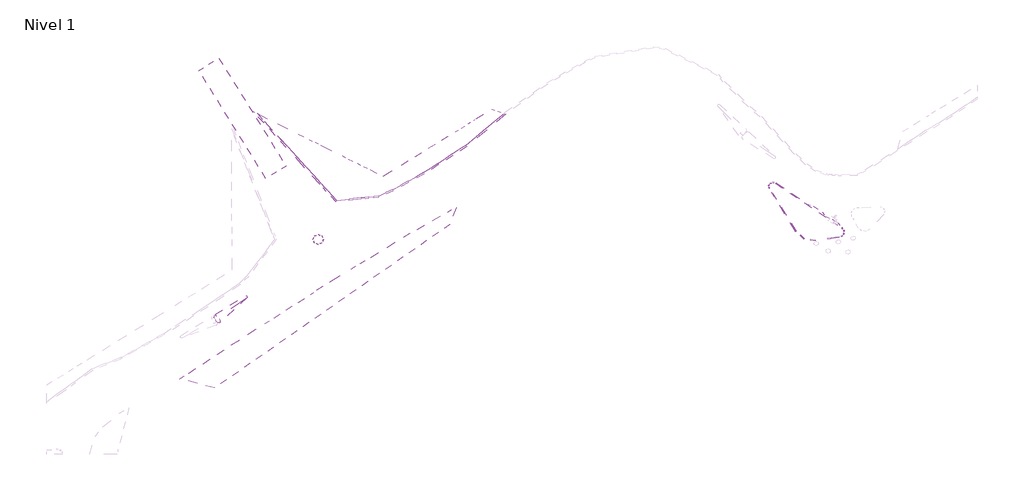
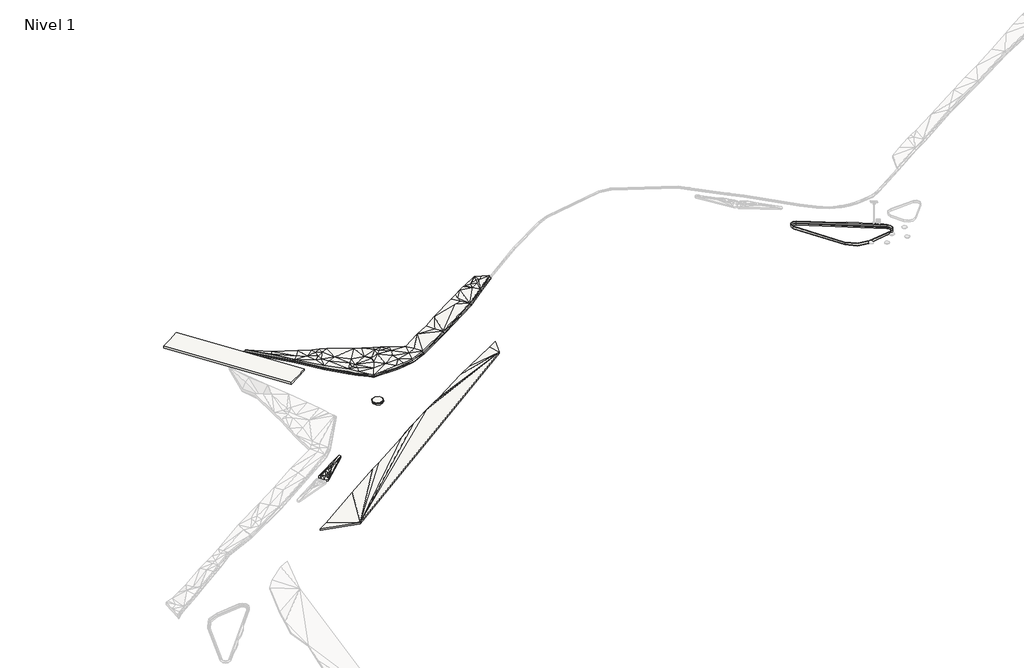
# One storey, part 38 of 45: 9 slabs.
"""IFC4 building model written with IfcOpenShell, lengths in millimetres."""

from ifc_helpers import new_model, si_unit, point, frame, frame_2d, origin, place, context, project, spatial, polyline, circle_curve, trimmed, segment, composite_curve, outline, extrude, faceted_brep, element, save
from ifc_brep_helpers import plane_surface, cylinder_surface, revolved_surface, spline_surface, advanced_brep

model = new_model("IFC4")

# Units and contexts
model_context = context("Model", 3, world=origin())
ifc_project = project(units=[si_unit("LENGTHUNIT", "METRE", prefix="MILLI")], contexts=[model_context])

# Site, building, storey
site = spatial("IfcSite", under=ifc_project)
building = spatial("IfcBuilding", under=site)
storey = spatial("IfcBuildingStorey", under=building, Name="Nivel 1", Elevation=0.0)

# Slabs
placement = place(None, origin())
element("IfcSlab", 1, ObjectType="Lippia", at=placement, inside=storey, context=model_context, shape_type="AdvancedBrep", body=[
    advanced_brep(
    [(-180439.4221483, 913300.8342034, 6450.0), (-180439.4221483, 913300.8342034, 6750.0), (-180922.1146071, 914080.0344156, 6750.0), (-180922.1146071, 914080.0344156, 6450.0), (-179663.7296089, 913241.4337641, 6450.0), (-179663.7296089, 913241.4337641, 6750.0), (-174536.6006951, 918035.914138, 6450.0), (-174536.6006951, 918035.914138, 6750.0), (-180760.2781276, 914764.6384502, 6450.0), (-180760.2781276, 914764.6384502, 6750.0), (-174811.5670405, 918445.7465879, 6750.0), (-174811.5670405, 918445.7465879, 6450.0), (-178935.399618, 914432.3121095, 7250.0), (-178672.5430449, 914948.7469465, 7250.0), (-178770.0025911, 915267.1847236, 7250.0), (-179102.0873318, 915212.5326208, 7250.0), (-179268.5275744, 914994.1628216, 7250.0), (-179465.5665354, 914752.8257232, 7250.0), (-179303.5036724, 914342.27944, 7250.0), (-180004.2631637, 913837.7097632, 7050.0), (-180400.1130616, 914151.6434341, 7050.0), (-178935.399618, 914432.3121095, 6950.0), (-179303.5036724, 914342.27944, 6950.0), (-179465.5665354, 914752.8257232, 6950.0), (-179268.5275744, 914994.1628216, 6950.0), (-179102.0873318, 915212.5326208, 6950.0), (-178770.0025911, 915267.1847236, 6950.0), (-178672.5430449, 914948.7469465, 6950.0), (-180004.2631637, 913837.7097632, 6750.0), (-180400.1130616, 914151.6434341, 6750.0), (-177617.3701467, 915662.4217462, 7050.0), (-177927.2535078, 916049.5422057, 7050.0), (-177617.3701467, 915662.4217462, 6750.0), (-177927.2535078, 916049.5422057, 6750.0), (-180374.663285, 914561.1340275, 7050.0), (-180495.3667085, 914340.5842789, 7050.0), (-180374.663285, 914561.1340275, 6750.0), (-180495.3667085, 914340.5842789, 6750.0), (-179659.7582553, 913730.6113589, 7050.0), (-179659.7582553, 913730.6113589, 6750.0), (-179332.8591974, 913883.224288, 7050.0), (-179332.8591974, 913883.224288, 6750.0), (-177602.1647804, 915992.1734923, 7050.0), (-177602.1647804, 915992.1734923, 6750.0)],
    [
        (0, 1),
        (1, 2),
        (2, 3),
        (3, 0),
        (4, 5),
        (5, 1, circle_curve(frame((-180027.5889889, 913584.3715895, 6750.0), z_axis=(0.0, 0.0, -1.0), x_axis=(0.9999997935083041, -0.0006426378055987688, 0.0)), 500.0000005)),
        (0, 4, circle_curve(frame((-180027.5889889, 913584.3715895, 6450.0), z_axis=(0.0, 0.0, 1.0), x_axis=(0.9999997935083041, -0.0006426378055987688, 0.0)), 500.0000005)),
        (6, 7),
        (7, 5),
        (4, 6),
        (8, 9),
        (9, 10),
        (10, 11),
        (11, 8),
        (2, 9, circle_curve(frame((-180495.3667085, 914340.5842789, 6750.0), z_axis=(0.0, 0.0, -1.0), x_axis=(0.9999997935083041, -0.0006426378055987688, 0.0)), 500.0000001)),
        (8, 3, circle_curve(frame((-180495.3667085, 914340.5842789, 6450.0), z_axis=(0.0, 0.0, 1.0), x_axis=(0.9999997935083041, -0.0006426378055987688, 0.0)), 500.0000001)),
        (12, 13),
        (13, 14),
        (14, 15),
        (15, 16),
        (16, 17),
        (17, 18),
        (18, 12),
        (5, 19),
        (19, 1),
        (1, 20),
        (20, 2),
        (21, 22),
        (22, 23),
        (23, 24),
        (24, 25),
        (25, 26),
        (26, 27),
        (27, 21),
        (0, 28),
        (28, 4),
        (3, 29),
        (29, 0),
        (13, 30),
        (30, 14),
        (14, 31),
        (31, 15),
        (26, 32),
        (32, 27),
        (25, 33),
        (33, 26),
        (30, 31),
        (12, 30),
        (33, 32),
        (32, 21),
        (34, 9),
        (9, 35),
        (35, 34),
        (16, 34),
        (34, 17),
        (36, 37),
        (37, 8),
        (8, 36),
        (23, 36),
        (36, 24),
        (2, 35),
        (35, 20),
        (20, 19),
        (19, 34),
        (37, 3),
        (36, 28),
        (28, 29),
        (29, 37),
        (19, 17),
        (19, 18),
        (5, 38),
        (38, 19),
        (23, 28),
        (22, 28),
        (28, 39),
        (39, 4),
        (40, 18),
        (18, 38),
        (38, 40),
        (40, 5),
        (5, 30),
        (30, 40),
        (41, 39),
        (39, 22),
        (22, 41),
        (41, 32),
        (32, 4),
        (4, 41),
        (34, 15),
        (31, 34),
        (31, 9),
        (36, 33),
        (25, 36),
        (8, 33),
        (40, 12),
        (21, 41),
        (42, 31),
        (30, 42),
        (43, 32),
        (33, 43),
        (10, 7, circle_curve(frame((-174707.3804829, 918218.4908714, 6750.0), z_axis=(0.0, 0.0, -1.0), x_axis=(0.9999997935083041, -0.0006426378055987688, 0.0)), 249.999999)),
        (6, 11, circle_curve(frame((-174707.3804829, 918218.4908714, 6450.0), z_axis=(0.0, 0.0, 1.0), x_axis=(0.9999997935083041, -0.0006426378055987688, 0.0)), 249.999999)),
        (31, 10),
        (42, 10),
        (42, 7),
        (30, 7),
        (11, 33),
        (11, 43),
        (6, 43),
        (6, 32),
    ],
    [
        plane_surface(frame((-180439.4221483, 913300.8342034, 6450.0), z_axis=(-0.850103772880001, -0.5266152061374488, 0.0), x_axis=(0.0, 0.0, 1.0))),
        cylinder_surface(frame((-180027.5889889, 913584.3715895, 6750.0), z_axis=(0.0, 0.0, -1.0), x_axis=(0.9999997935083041, -0.0006426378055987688, 0.0)), 500.0000005),
        plane_surface(frame((-174536.6006951, 918035.914138, 6450.0), z_axis=(0.6830153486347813, -0.7304040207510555, 0.0), x_axis=(0.0, 0.0, 1.0))),
        plane_surface(frame((-180760.2781276, 914764.6384502, 6450.0), z_axis=(-0.5262071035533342, 0.8503564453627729, 0.0), x_axis=(0.0, 0.0, 1.0))),
        cylinder_surface(frame((-180495.3667085, 914340.5842789, 6750.0), z_axis=(0.0, 0.0, -1.0), x_axis=(0.9999997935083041, -0.0006426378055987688, 0.0)), 500.0000001),
        plane_surface(frame((-179073.9471954, 914850.0063407, 7250.0), z_axis=(0.0, 0.0, 1.0), x_axis=(0.4536066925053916, 0.891201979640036, 0.0))),
        spline_surface(2, 1, [[(-180439.4221483, 913300.8342034, 6750.0), (-180004.2631637, 913837.7097632, 7050.0)], [(-180303.95541076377, 913104.0711053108, 6750.0), (-180004.2631637, 913837.7097632, 7050.0)], [(-180065.7658657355, 913085.8311933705, 6750.0), (-180004.2631637, 913837.7097632, 7050.0)], [(-179827.57632070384, 913067.5912814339, 6750.0), (-180004.2631637, 913837.7097632, 7050.0)], [(-179663.7296089, 913241.4337641, 6750.0), (-180004.2631637, 913837.7097632, 7050.0)]], [3, 2, 3], [2, 2], [0.0, 1.0, 2.0], [0.0, 1.0], weights=[[1.0, 1.0], [0.9023052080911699, 0.9023052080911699], [1.0, 1.0], [0.9023052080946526, 0.9023052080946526], [1.0, 1.0]]),
        plane_surface(frame((-180587.2166057, 913844.1706844, 6850.0), z_axis=(-0.4495663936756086, -0.2784936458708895, 0.8487233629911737), x_axis=(0.5266152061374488, -0.850103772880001, 0.0))),
        plane_surface(frame((-179073.9471954, 914850.0063407, 6950.0), z_axis=(0.0, 0.0, -1.0), x_axis=(0.4536066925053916, 0.891201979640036, 0.0))),
        spline_surface(1, 2, [[(-180439.4221483, 913300.8342034, 6450.0), (-180303.95541076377, 913104.0711053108, 6450.0), (-180065.7658657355, 913085.8311933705, 6450.0), (-179827.57632070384, 913067.5912814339, 6450.0), (-179663.7296089, 913241.4337641, 6450.0)], [(-180004.2631637, 913837.7097632, 6750.0), (-180004.2631637, 913837.7097632, 6750.0), (-180004.2631637, 913837.7097632, 6750.0), (-180004.2631637, 913837.7097632, 6750.0), (-180004.2631637, 913837.7097632, 6750.0)]], [2, 2], [3, 2, 3], [0.0, 1.0], [0.0, 1.0, 2.0], weights=[[1.0, 0.9023052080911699, 1.0, 0.9023052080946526, 1.0], [1.0, 0.9023052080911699, 1.0, 0.9023052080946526, 1.0]]),
        plane_surface(frame((-180587.2166057, 913844.1706844, 6550.0), z_axis=(0.4495663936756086, 0.2784936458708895, -0.8487233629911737), x_axis=(0.5266152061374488, -0.850103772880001, 0.0))),
        plane_surface(frame((-178353.3052609, 915292.7844721, 7183.3333333), z_axis=(0.1549598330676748, 0.04742626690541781, 0.9867817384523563), x_axis=(0.2926555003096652, -0.9562179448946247, 0.0))),
        plane_surface(frame((-178599.7811435, 915509.7531833, 7183.3333333), z_axis=(-0.04877506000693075, 0.2963738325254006, 0.953825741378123), x_axis=(0.9867269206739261, 0.16238837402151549, 0.0))),
        plane_surface(frame((-178353.3052609, 915292.7844721, 6883.3333333), z_axis=(-0.1549598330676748, -0.04742626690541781, -0.9867817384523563), x_axis=(0.2926555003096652, -0.9562179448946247, 0.0))),
        plane_surface(frame((-178599.7811435, 915509.7531833, 6883.3333333), z_axis=(0.04877506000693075, -0.2963738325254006, -0.953825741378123), x_axis=(0.9867269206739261, 0.16238837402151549, 0.0))),
        plane_surface(frame((-178104.8754152, 915659.7162251, 7116.6666667), z_axis=(0.13412160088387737, 0.10736206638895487, 0.9851318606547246), x_axis=(-0.7220386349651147, -0.6702971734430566, 0.17135317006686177))),
        plane_surface(frame((-178408.4376032, 915014.4936007, 7183.3333333), z_axis=(0.27494893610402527, -0.13994434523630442, 0.9512195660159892), x_axis=(-0.8183024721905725, -0.5534655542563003, 0.15510301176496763))),
        plane_surface(frame((-178104.8754152, 915659.7162251, 6816.6666667), z_axis=(-0.13412160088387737, -0.10736206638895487, -0.9851318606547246), x_axis=(-0.7220386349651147, -0.6702971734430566, 0.17135317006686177))),
        plane_surface(frame((-178408.4376032, 915014.4936007, 6883.3333333), z_axis=(-0.27494893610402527, 0.13994434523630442, -0.9512195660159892), x_axis=(-0.8183024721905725, -0.5534655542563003, 0.15510301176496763))),
        plane_surface(frame((-180543.4360404, 914555.4522522, 6950.0), z_axis=(-0.4972755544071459, 0.27215112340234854, 0.8238026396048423), x_axis=(-0.7285967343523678, 0.3845097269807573, -0.5668324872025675))),
        plane_surface(frame((-179702.9191316, 914769.3741908, 7183.3333333), z_axis=(-0.25136736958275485, 0.20522814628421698, 0.9458836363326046), x_axis=(0.6324325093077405, 0.7746154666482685, 0.0))),
        plane_surface(frame((-180543.4360404, 914555.4522522, 6650.0), z_axis=(0.4972755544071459, -0.27215112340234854, -0.8238026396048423), x_axis=(-0.7285967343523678, 0.3845097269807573, -0.5668324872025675))),
        plane_surface(frame((-179702.9191316, 914769.3741908, 6883.3333333), z_axis=(0.25136736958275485, -0.20522814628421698, -0.9458836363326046), x_axis=(0.6324325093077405, 0.7746154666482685, 0.0))),
        revolved_surface(polyline([(-180495.3667085, 914340.5842789, 7050.0), (-180760.27812760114, 914764.6384502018, 6749.999999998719)]), (-180495.3667085, 914340.5842789, 7050.0), (0.0, -1.3860699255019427e-12, -1.0)),
        plane_surface(frame((-180318.6015547, 914222.7678759, 7050.0), z_axis=(0.0, 0.0, 1.0), x_axis=(0.45017238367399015, -0.8929416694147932, 0.0))),
        plane_surface(frame((-180605.8647924, 914190.7540429, 6950.0), z_axis=(-0.4605294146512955, -0.23217375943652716, 0.8567426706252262), x_axis=(-0.731866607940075, -0.44683932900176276, -0.5144957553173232))),
        revolved_surface(polyline([(-180922.11460710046, 914080.0344155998, 6449.999999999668), (-180495.3667085, 914340.5842789, 6750.0)]), (-180495.3667085, 914340.5842789, 6750.0), (0.0, -1.3860699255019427e-12, -1.0)),
        plane_surface(frame((-180318.6015547, 914222.7678759, 6750.0), z_axis=(0.0, 0.0, -1.0), x_axis=(0.45017238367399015, -0.8929416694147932, 0.0))),
        plane_surface(frame((-180605.8647924, 914190.7540429, 6650.0), z_axis=(0.4605294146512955, 0.23217375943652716, -0.8567426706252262), x_axis=(-0.731866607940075, -0.44683932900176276, -0.5144957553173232))),
        plane_surface(frame((-179948.1643281, 914383.889838, 7116.6666667), z_axis=(-0.1937980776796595, -0.09922646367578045, 0.9760104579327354), x_axis=(0.4985301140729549, 0.8468827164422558, 0.18508751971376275))),
        plane_surface(frame((-179591.1111239, 914310.9383088, 7183.3333333), z_axis=(-0.2161535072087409, -0.0853264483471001, 0.9726238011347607), x_axis=(0.7905934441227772, 0.5692530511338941, 0.2256390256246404))),
        plane_surface(frame((-179775.9170093, 913603.2516287, 6950.0), z_axis=(-0.16013253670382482, -0.515100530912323, 0.8420386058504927), x_axis=(0.45444556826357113, -0.7957365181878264, -0.4003531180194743))),
        plane_surface(frame((-180281.2661246, 913763.3958002, 6950.0), z_axis=(-0.2474428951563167, -0.31200936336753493, 0.9172906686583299), x_axis=(-0.043531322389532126, -0.9421956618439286, -0.33222335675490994))),
        plane_surface(frame((-179948.1643281, 914383.889838, 6816.6666667), z_axis=(0.1937980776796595, 0.09922646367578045, -0.9760104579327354), x_axis=(0.4985301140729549, 0.8468827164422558, 0.18508751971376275))),
        plane_surface(frame((-179591.1111239, 914310.9383088, 6883.3333333), z_axis=(0.2161535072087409, 0.0853264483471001, -0.9726238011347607), x_axis=(0.7905934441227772, 0.5692530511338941, 0.2256390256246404))),
        plane_surface(frame((-179775.9170093, 913603.2516287, 6650.0), z_axis=(0.16013253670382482, 0.515100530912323, -0.8420386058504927), x_axis=(0.45444556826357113, -0.7957365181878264, -0.4003531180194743))),
        plane_surface(frame((-180281.2661246, 913763.3958002, 6650.0), z_axis=(0.2474428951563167, 0.31200936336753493, -0.9172906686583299), x_axis=(-0.043531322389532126, -0.9421956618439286, -0.33222335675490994))),
        plane_surface(frame((-179432.040375, 913985.3716956, 7116.6666667), z_axis=(0.1878498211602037, -0.40237698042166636, 0.89599397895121), x_axis=(0.05852484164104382, 0.9151984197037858, 0.39873135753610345))),
        plane_surface(frame((-178871.319651, 914262.3599328, 6950.0), z_axis=(0.5922575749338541, -0.5710503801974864, 0.5684473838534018), x_axis=(-0.4231611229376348, -0.8208071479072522, -0.3836799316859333))),
        plane_surface(frame((-179432.040375, 913985.3716956, 6816.6666667), z_axis=(-0.1878498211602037, 0.40237698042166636, -0.89599397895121), x_axis=(0.05852484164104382, 0.9151984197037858, 0.39873135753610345))),
        plane_surface(frame((-178871.319651, 914262.3599328, 6650.0), z_axis=(-0.5922575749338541, 0.5710503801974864, -0.5684473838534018), x_axis=(-0.4231611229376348, -0.8208071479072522, -0.3836799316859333))),
        plane_surface(frame((-179655.8416971, 913970.2001874, 7116.6666667), z_axis=(-0.08266150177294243, -0.2658983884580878, 0.9604504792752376), x_axis=(0.48432811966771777, 0.831562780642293, 0.27190000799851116))),
        plane_surface(frame((-179655.8416971, 913970.2001874, 6816.6666667), z_axis=(0.08266150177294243, 0.2658983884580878, -0.9604504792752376), x_axis=(0.48432811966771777, 0.831562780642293, 0.27190000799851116))),
        plane_surface(frame((-179134.6680415, 915274.4029513, 7116.6666667), z_axis=(-0.4603582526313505, 0.7569733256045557, 0.46374741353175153), x_axis=(0.8815741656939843, 0.4512549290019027, 0.13854955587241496))),
        plane_surface(frame((-179581.7593971, 914922.6098233, 7183.3333333), z_axis=(-0.24515560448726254, 0.1868562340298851, 0.9513061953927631), x_axis=(0.9182632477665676, 0.35948068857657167, 0.16603084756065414))),
        plane_surface(frame((-179687.3983068, 915125.1048944, 6950.0), z_axis=(-0.32499740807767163, 0.5343976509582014, 0.7802536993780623), x_axis=(-0.906503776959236, -0.4111401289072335, -0.09599321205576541))),
        plane_surface(frame((-179134.6680415, 915274.4029513, 6816.6666667), z_axis=(0.4603582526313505, -0.7569733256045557, -0.46374741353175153), x_axis=(0.8815741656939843, 0.4512549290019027, 0.13854955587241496))),
        plane_surface(frame((-179581.7593971, 914922.6098233, 6883.3333333), z_axis=(0.24515560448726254, -0.1868562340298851, -0.9513061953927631), x_axis=(0.9182632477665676, 0.35948068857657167, 0.16603084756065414))),
        plane_surface(frame((-179687.3983068, 915125.1048944, 6650.0), z_axis=(0.32499740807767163, -0.5343976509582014, -0.7802536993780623), x_axis=(-0.906503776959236, -0.4111401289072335, -0.09599321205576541))),
        plane_surface(frame((-179190.5874959, 914219.2719458, 7183.3333333), z_axis=(0.09850924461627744, -0.4027610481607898, 0.9099887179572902), x_axis=(-0.9713675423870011, -0.2375817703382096, 0.0))),
        plane_surface(frame((-178628.5429874, 914659.3193812, 7116.6666667), z_axis=(0.6502494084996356, -0.6269656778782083, 0.429056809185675), x_axis=(-0.7266121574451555, -0.6781431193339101, 0.11025734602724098))),
        plane_surface(frame((-179190.5874959, 914219.2719458, 6883.3333333), z_axis=(-0.09850924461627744, 0.4027610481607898, -0.9099887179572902), x_axis=(-0.9713675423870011, -0.2375817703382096, 0.0))),
        plane_surface(frame((-178628.5429874, 914659.3193812, 6816.6666667), z_axis=(-0.6502494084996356, 0.6269656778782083, -0.429056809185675), x_axis=(-0.7266121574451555, -0.6781431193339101, 0.11025734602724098))),
        plane_surface(frame((-177715.596145, 915901.3791481, 7050.0), z_axis=(0.0, 0.0, 1.0), x_axis=(-0.9847834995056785, 0.17378567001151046, 0.0))),
        plane_surface(frame((-179552.1156872, 913618.423137, 6950.0), z_axis=(0.23772332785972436, -0.5092067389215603, 0.827161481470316), x_axis=(-0.0069204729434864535, -0.8524399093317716, -0.5227794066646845))),
        plane_surface(frame((-177715.596145, 915901.3791481, 6750.0), z_axis=(0.0, 0.0, -1.0), x_axis=(-0.9847834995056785, 0.17378567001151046, 0.0))),
        plane_surface(frame((-179552.1156872, 913618.423137, 6650.0), z_axis=(-0.23772332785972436, 0.5092067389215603, -0.827161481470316), x_axis=(-0.0069204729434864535, -0.8524399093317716, -0.5227794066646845))),
        cylinder_surface(frame((-174707.3804829, 918218.4908714, 6750.0), z_axis=(0.0, 0.0, -1.0), x_axis=(0.9999997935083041, -0.0006426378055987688, 0.0)), 249.999999),
        plane_surface(frame((-177833.032892, 916419.9757479, 6850.0), z_axis=(-0.31667018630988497, 0.5117424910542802, 0.7986486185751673), x_axis=(-0.8503564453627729, -0.5262071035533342, 0.0))),
        plane_surface(frame((-176780.3284429, 916829.1540953, 6950.0), z_axis=(0.017875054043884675, 0.10129177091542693, 0.9946961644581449), x_axis=(-0.7903838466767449, -0.6078664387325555, 0.07610366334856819))),
        spline_surface(2, 1, [[(-174536.6006951, 918035.914138, 6750.0), (-177602.1647804, 915992.1734923, 7050.0)], [(-174381.29610511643, 918181.1839345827, 6750.0), (-177602.1647804, 915992.1734923, 7050.0)], [(-174499.77671647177, 918357.7771796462, 6750.0), (-177602.1647804, 915992.1734923, 7050.0)], [(-174618.25732777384, 918534.370424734, 6750.0), (-177602.1647804, 915992.1734923, 7050.0)], [(-174811.5670405, 918445.7465879, 6750.0), (-177602.1647804, 915992.1734923, 7050.0)]], [3, 2, 3], [2, 2], [0.0, 1.0, 2.0], [0.0, 1.0], weights=[[1.0, 1.0], [0.7617038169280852, 0.7617038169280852], [1.0, 1.0], [0.7617038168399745, 0.7617038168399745], [1.0, 1.0]]),
        plane_surface(frame((-176585.3785408, 916563.5031255, 6950.0), z_axis=(0.10045329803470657, -0.004632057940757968, 0.994930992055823), x_axis=(-0.04606261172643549, -0.9989385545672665, 0.0))),
        plane_surface(frame((-177272.5668169, 915646.5898828, 6850.0), z_axis=(0.42974069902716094, -0.45955678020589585, 0.7772583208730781), x_axis=(-0.6426718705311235, -0.7603262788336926, -0.09421685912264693))),
        plane_surface(frame((-177833.032892, 916419.9757479, 6550.0), z_axis=(0.31667018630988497, -0.5117424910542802, -0.7986486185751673), x_axis=(-0.8503564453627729, -0.5262071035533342, 0.0))),
        plane_surface(frame((-176780.3284429, 916829.1540953, 6650.0), z_axis=(-0.017875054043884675, -0.10129177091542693, -0.9946961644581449), x_axis=(-0.7903838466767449, -0.6078664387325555, 0.07610366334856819))),
        spline_surface(1, 2, [[(-174536.6006951, 918035.914138, 6450.0), (-174381.29610511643, 918181.1839345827, 6450.0), (-174499.77671647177, 918357.7771796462, 6450.0), (-174618.25732777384, 918534.370424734, 6450.0), (-174811.5670405, 918445.7465879, 6450.0)], [(-177602.1647804, 915992.1734923, 6750.0), (-177602.1647804, 915992.1734923, 6750.0), (-177602.1647804, 915992.1734923, 6750.0), (-177602.1647804, 915992.1734923, 6750.0), (-177602.1647804, 915992.1734923, 6750.0)]], [2, 2], [3, 2, 3], [0.0, 1.0], [0.0, 1.0, 2.0], weights=[[1.0, 0.7617038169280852, 1.0, 0.7617038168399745, 1.0], [1.0, 0.7617038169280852, 1.0, 0.7617038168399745, 1.0]]),
        plane_surface(frame((-176585.3785408, 916563.5031255, 6650.0), z_axis=(-0.10045329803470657, 0.004632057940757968, -0.994930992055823), x_axis=(-0.04606261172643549, -0.9989385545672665, 0.0))),
        plane_surface(frame((-177272.5668169, 915646.5898828, 6550.0), z_axis=(-0.42974069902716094, 0.45955678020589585, -0.7772583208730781), x_axis=(-0.6426718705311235, -0.7603262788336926, -0.09421685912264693))),
    ],
    [
        (0, [[1, 2, 3, 4]]),
        (1, [[5, 6, -1, 7]]),
        (2, [[8, 9, -5, 10]]),
        (3, [[11, 12, 13, 14]]),
        (4, [[-3, 15, -11, 16]]),
        (5, [[17, 18, 19, 20, 21, 22, 23]]),
        (6, [[-6, 24, 25]]),
        (7, [[-2, 26, 27]]),
        (8, [[28, 29, 30, 31, 32, 33, 34]]),
        (9, [[35, 36, -7]]),
        (10, [[37, 38, -4]]),
        (11, [[-18, 39, 40]]),
        (12, [[-19, 41, 42]]),
        (13, [[43, 44, -33]]),
        (14, [[45, 46, -32]]),
        (15, [[-41, -40, 47]]),
        (16, [[-39, -17, 48]]),
        (17, [[49, -43, -46]]),
        (18, [[50, -34, -44]]),
        (19, [[51, 52, 53]]),
        (20, [[-21, 54, 55]]),
        (21, [[56, 57, 58]]),
        (22, [[59, 60, -30]]),
        (23, [[-52, -15, 61]]),
        (24, [[62, 63, 64, -53]]),
        (25, [[-61, -27, -62]]),
        (26, [[65, -16, -57]]),
        (27, [[-56, 66, 67, 68]]),
        (28, [[-68, -37, -65]]),
        (29, [[69, -55, -64]]),
        (30, [[70, -22, -69]]),
        (31, [[-24, 71, 72]]),
        (32, [[-26, -25, -63]]),
        (33, [[-66, -59, 73]]),
        (34, [[-73, -29, 74]]),
        (35, [[75, 76, -36]]),
        (36, [[-67, -35, -38]]),
        (37, [[77, 78, 79]]),
        (38, [[80, 81, 82]]),
        (39, [[83, 84, 85]]),
        (40, [[86, 87, 88]]),
        (41, [[-78, -70, -72]]),
        (42, [[-75, -74, -84]]),
        (43, [[89, -42, 90]]),
        (44, [[-54, -20, -89]]),
        (45, [[91, -51, -90]]),
        (46, [[92, -45, 93]]),
        (47, [[-93, -31, -60]]),
        (48, [[-92, -58, 94]]),
        (49, [[-23, -77, 95]]),
        (50, [[-48, -95, -82]]),
        (51, [[96, -85, -28]]),
        (52, [[-86, -96, -50]]),
        (53, [[97, -47, 98]]),
        (54, [[-71, -80, -79]]),
        (55, [[99, -49, 100]]),
        (56, [[-83, -88, -76]]),
        (57, [[-13, 101, -8, 102]]),
        (58, [[-12, -91, 103]]),
        (59, [[-103, -97, 104]]),
        (60, [[-104, 105, -101]]),
        (61, [[-98, 106, -105]]),
        (62, [[-81, -9, -106]]),
        (63, [[107, -94, -14]]),
        (64, [[108, -100, -107]]),
        (65, [[-102, 109, -108]]),
        (66, [[-109, 110, -99]]),
        (67, [[-110, -10, -87]]),
    ],
),
])
element("IfcSlab", 2, ObjectType="Bordillo", at=placement, inside=storey, context=model_context, shape_type="SweptSolid", body=[
    extrude(outline(composite_curve([segment(trimmed(circle_curve(frame_2d((-63236.9013709, 933066.2784284)), 3900.0000027), [point((-62689.6449342, 929204.865421))], [point((-66549.6331809, 931008.1705654))], False, "CARTESIAN"), True, "CONTINUOUS"), segment(polyline([(-66549.6331809, 931008.1705654), (-71831.7562094, 939510.2793691)]), True, "CONTINUOUS"), segment(trimmed(circle_curve(frame_2d((-71067.2796383, 939985.2273372)), 900.0000001), [point((-71831.7562094, 939510.2793691))], [point((-70565.0388803, 940732.056783))], False, "CARTESIAN"), True, "CONTINUOUS"), segment(polyline([(-70565.0388803, 940732.056783), (-64311.762442, 936526.7454956), (-63176.4780983, 936064.5435668), (-61433.8761673, 934892.6485383), (-60577.6148817, 934015.5415633), (-59442.330592, 933553.3397035), (-58380.1731716, 932839.0417663), (-57523.7439373, 931961.8216866)]), True, "CONTINUOUS"), segment(trimmed(circle_curve(frame_2d((-58165.4960255, 931007.5396232)), 1149.9999997), [point((-57523.7439373, 931961.8216866))], [point((-58004.125538, 929868.9178401))], False, "CARTESIAN"), True, "CONTINUOUS"), segment(polyline([(-58004.125538, 929868.9178401), (-62689.6449342, 929204.865421)]), True, "CONTINUOUS")], self_intersect=False), holes=[composite_curve([segment(polyline([(-71704.3434475, 939589.4373645), (-66422.2204199, 931087.3285607)]), True, "CONTINUOUS"), segment(trimmed(circle_curve(frame_2d((-63236.9013722, 933066.2784282)), 3750.0000019), [point((-66422.2204199, 931087.3285607))], [point((-62710.6932611, 929353.3813063))], True, "CARTESIAN"), True, "CONTINUOUS"), segment(polyline([(-62710.6932611, 929353.3813063), (-58025.1738618, 930017.4337256)]), True, "CONTINUOUS"), segment(trimmed(circle_curve(frame_2d((-58165.4960251, 931007.5396249)), 1000.0000007), [point((-58025.1738618, 930017.4337256))], [point((-57607.4116864, 931837.3238573))], True, "CARTESIAN"), True, "CONTINUOUS"), segment(polyline([(-57607.4116864, 931837.3238573), (-70648.7456757, 940607.5852101)]), True, "CONTINUOUS"), segment(trimmed(circle_curve(frame_2d((-71067.2796386, 939985.2273377)), 749.9999996), [point((-70648.7456757, 940607.5852101))], [point((-71704.3434475, 939589.4373645))], True, "CARTESIAN"), True, "CONTINUOUS")], self_intersect=False)]), frame((0.0, 0.0, 5850.0), z_axis=(0.0, 0.0, 1.0), x_axis=(1.0, 0.0, 0.0)), (0.0, 0.0, 1.0), 400.0),
])
element("IfcSlab", 3, ObjectType="Alcorque", at=placement, inside=storey, context=model_context, shape_type="SweptSolid", body=[
    extrude(outline(composite_curve([segment(trimmed(circle_curve(frame_2d((-160525.1059015, 929533.7066842)), 1050.0), [point((-159475.1059015, 929533.7066842))], [point((-161575.1059015, 929533.7066842))], False, "CARTESIAN"), True, "CONTINUOUS"), segment(trimmed(circle_curve(frame_2d((-160525.1059015, 929533.7066842)), 1050.0), [point((-161575.1059015, 929533.7066842))], [point((-159475.1059015, 929533.7066842))], False, "CARTESIAN"), True, "CONTINUOUS")], self_intersect=False), holes=[composite_curve([segment(trimmed(circle_curve(frame_2d((-160525.1059015, 929533.7066842)), 950.0), [point((-159575.1059015, 929533.7066842))], [point((-161475.1059015, 929533.7066842))], True, "CARTESIAN"), True, "CONTINUOUS"), segment(trimmed(circle_curve(frame_2d((-160525.1059015, 929533.7066842)), 950.0), [point((-161475.1059015, 929533.7066842))], [point((-159575.1059015, 929533.7066842))], True, "CARTESIAN"), True, "CONTINUOUS")], self_intersect=False)]), frame((0.0, 0.0, 6650.0), z_axis=(0.0, 0.0, 1.0), x_axis=(1.0, 0.0, 0.0)), (0.0, 0.0, 1.0), 150.0),
])
element("IfcSlab", 4, ObjectType="Tierra Compactada", at=placement, inside=storey, context=model_context, shape_type="Brep", body=[
    faceted_brep([(-182012.2185652, 964012.524921, 5822.8466338), (-182012.2185652, 964012.524921, 6172.8466338), (-180059.9115748, 965225.5405484, 6172.8466338), (-180059.9115748, 965225.5405484, 5822.8466338), (-166816.1493084, 944021.6205983, 6750.0), (-166816.1493084, 944021.6205983, 6400.0), (-168809.2335678, 942783.2690658, 6750.0), (-170802.3178271, 941544.9175334, 6750.0), (-170802.3178271, 941544.9175334, 6400.0), (-168809.2335678, 942783.2690658, 6400.0), (-183982.4819576, 962788.352546, 6172.8466338), (-183982.4819576, 962788.352546, 5822.8466338)], [[[0, 1, 2, 3]], [[3, 2, 4, 5]], [[5, 4, 6, 7, 8, 9]], [[8, 7, 10, 11]], [[11, 10, 1, 0]], [[10, 7, 6, 4, 2, 1]], [[11, 0, 3, 5, 9, 8]]]),
])
element("IfcSlab", 5, ObjectType="Portulaca", at=placement, inside=storey, context=model_context, shape_type="Brep", body=[
    faceted_brep([(-180898.6347515, 900271.571158, 5550.0), (-180898.6347515, 900271.571158, 5850.0), (-187797.7299252, 902120.1781375, 5739.7832837), (-187797.7299252, 902120.1781375, 5439.7832837), (-185949.4556404, 903213.4936582, 5722.8568319), (-185949.4556404, 903213.4936582, 5422.8568319), (-177609.0929836, 908738.6431662, 5871.370964), (-177609.0929836, 908738.6431662, 5571.370964), (-171074.4578129, 912959.5343737, 5929.7794168), (-171074.4578129, 912959.5343737, 5629.7794168), (-169176.6333412, 914115.3408555, 5920.5925853), (-169176.6333412, 914115.3408555, 5620.5925853), (-162020.4327436, 918687.6061694, 5977.1263883), (-162020.4327436, 918687.6061694, 5677.1263883), (-160803.9167384, 919588.3387817, 6040.0), (-160803.9167384, 919588.3387817, 5740.0), (-158300.3805569, 921150.5281058, 6042.8873149), (-158300.3805569, 921150.5281058, 5742.8873149), (-154095.1692401, 923722.7181872, 6027.3837274), (-154095.1692401, 923722.7181872, 5727.3837274), (-154052.8591422, 923746.4948376, 6026.2914533), (-154052.8591422, 923746.4948376, 5726.2914533), (-152274.7334672, 924809.1269495, 6009.0076773), (-152274.7334672, 924809.1269495, 5709.0076773), (-150230.349468, 926002.5359509, 5977.2989474), (-150230.349468, 926002.5359509, 5677.2989474), (-143716.4926844, 929983.0771057, 5956.0185731), (-143716.4926844, 929983.0771057, 5656.0185731), (-141051.5630595, 931527.7078492, 5905.3392858), (-141051.5630595, 931527.7078492, 5605.3392858), (-135034.9347308, 934958.2514172, 5778.6943583), (-135034.9347308, 934958.2514172, 5478.6943583), (-133419.626382, 935863.2083765, 5744.5484283), (-133419.626382, 935863.2083765, 5444.5484283), (-134609.6729957, 932499.982134, 6000.0), (-134609.6729957, 932499.982134, 5700.0)], [[[0, 1, 2, 3]], [[3, 2, 4, 5]], [[5, 4, 6, 7]], [[7, 6, 8, 9]], [[9, 8, 10, 11]], [[11, 10, 12, 13]], [[13, 12, 14, 15]], [[15, 14, 16, 17]], [[17, 16, 18, 19]], [[19, 18, 20, 21]], [[21, 20, 22, 23]], [[23, 22, 24, 25]], [[25, 24, 26, 27]], [[27, 26, 28, 29]], [[29, 28, 30, 31]], [[31, 30, 32, 33]], [[33, 32, 34, 35]], [[35, 34, 1, 0]], [[34, 32, 30]], [[35, 31, 33]], [[34, 30, 28]], [[35, 29, 31]], [[34, 28, 26]], [[35, 27, 29]], [[34, 26, 24]], [[35, 25, 27]], [[34, 24, 22]], [[35, 23, 25]], [[34, 22, 20]], [[35, 21, 23]], [[34, 20, 1]], [[35, 0, 21]], [[20, 18, 16]], [[21, 17, 19]], [[16, 14, 12]], [[20, 16, 1]], [[17, 13, 15]], [[21, 0, 17]], [[12, 10, 1]], [[16, 12, 1]], [[13, 0, 11]], [[17, 0, 13]], [[10, 8, 1]], [[11, 0, 9]], [[8, 6, 1]], [[9, 0, 7]], [[6, 4, 1]], [[7, 0, 5]], [[4, 2, 1]], [[5, 0, 3]]]),
])
element("IfcSlab", 6, ObjectType="Tierra de Chacra (50cm)", at=placement, inside=storey, context=model_context, shape_type="Brep", body=[
    faceted_brep([(-147726.7864063, 941969.8722778, 5502.2656418), (-147726.7864063, 941969.8722778, 6002.2656418), (-144124.7232374, 944203.9314096, 6025.197407), (-141435.0323803, 945872.122149, 5820.0), (-138830.9870203, 947487.1941351, 5880.1213408), (-133607.0654325, 950727.1566732, 5820.0), (-132409.6528025, 951469.8117837, 5820.0), (-131047.0133437, 952314.9433051, 5802.5655951), (-129962.6144857, 952987.5054057, 5749.5296398), (-129420.1320181, 953323.9620012, 5662.9664981), (-126430.6112338, 955178.1122187, 5364.2738135), (-126430.6112338, 955178.1122187, 4864.2738135), (-129420.1320181, 953323.9620012, 5162.9664981), (-129962.6144857, 952987.5054057, 5249.5296398), (-131047.0133437, 952314.9433051, 5302.5655951), (-132409.6528025, 951469.8117837, 5320.0), (-133607.0654325, 950727.1566732, 5320.0), (-138830.9870203, 947487.1941351, 5380.1213408), (-141435.0323803, 945872.122149, 5320.0), (-144124.7232374, 944203.9314096, 5525.197407), (-125202.9467807, 954764.2770741, 5245.0), (-123975.2823276, 954350.4419296, 5201.3779529), (-123975.2823276, 954350.4419296, 4701.3779529), (-125202.9467807, 954764.2770741, 4745.0), (-127587.5554771, 951327.0048219, 5480.2), (-127587.5554771, 951327.0048219, 4980.2), (-131446.4100337, 948097.181501, 5842.0), (-131446.4100337, 948097.181501, 5342.0), (-139819.6510734, 942679.4812155, 6137.6), (-139819.6510734, 942679.4812155, 5637.6), (-145860.4935782, 939334.7714115, 6024.5), (-145860.4935782, 939334.7714115, 5524.5), (-148659.8831695, 938119.0970297, 6042.5), (-148659.8831695, 938119.0970297, 5542.5), (-150595.7804402, 937906.450132, 6061.5), (-152044.6225604, 937747.3033701, 6102.3), (-156873.6270322, 937216.8657093, 6136.4910924), (-156873.6270322, 937216.8657093, 5636.4910924), (-152044.6225604, 937747.3033701, 5602.3), (-150595.7804402, 937906.450132, 5561.5), (-158677.6765865, 939188.9753156, 6292.3618414), (-159943.6332871, 940572.8648903, 6385.6751227), (-162921.7358637, 943828.3989116, 6208.3689479), (-166553.7343429, 947798.7438913, 6407.3959721), (-169557.2364563, 951082.0435969, 6430.5115383), (-172560.7385697, 954365.3433025, 6458.0), (-172560.7385697, 954365.3433025, 5958.0), (-169557.2364563, 951082.0435969, 5930.5115383), (-166553.7343429, 947798.7438913, 5907.3959721), (-162921.7358637, 943828.3989116, 5708.3689479), (-159943.6332871, 940572.8648903, 5885.6751227), (-158677.6765865, 939188.9753156, 5792.3618414), (-168505.3986558, 952341.1850829, 6000.0), (-164450.0587418, 950317.0268632, 6005.0), (-162261.6977229, 949224.7413734, 6035.0), (-161129.3896111, 948659.5678441, 6170.0), (-159997.0814993, 948094.3943148, 6200.0), (-155791.3172864, 945995.1542061, 6020.0), (-154583.5748867, 945392.3288555, 6020.0), (-152845.0378514, 944524.5658307, 6080.0), (-151565.4749901, 943885.8924425, 6130.0), (-150285.9121289, 943247.2190542, 6100.0), (-150285.9121289, 943247.2190542, 5600.0), (-151565.4749901, 943885.8924425, 5630.0), (-152845.0378514, 944524.5658307, 5580.0), (-154583.5748867, 945392.3288555, 5520.0), (-155791.3172864, 945995.1542061, 5520.0), (-159997.0814993, 948094.3943148, 5700.0), (-161129.3896111, 948659.5678441, 5670.0), (-162261.6977229, 949224.7413734, 5535.0), (-164450.0587418, 950317.0268632, 5505.0), (-168505.3986558, 952341.1850829, 5500.0), (-153500.335742, 939131.4799146, 6231.15), (-153500.335742, 939131.4799146, 5731.15), (-148193.3347879, 940044.4846537, 6020.0), (-148193.3347879, 940044.4846537, 5520.0), (-133743.2002462, 949040.7275782, 5799.3193277), (-133743.2002462, 949040.7275782, 5299.3193277), (-128549.5508445, 952237.5245342, 5500.0), (-128549.5508445, 952237.5245342, 5000.0), (-126106.015068, 954008.4177972, 5327.5), (-126106.015068, 954008.4177972, 4827.5), (-163479.4024937, 945801.9592254, 6374.184474), (-161575.6659519, 944366.8443785, 6414.184474), (-163479.4024937, 945801.9592254, 5874.184474), (-161575.6659519, 944366.8443785, 5914.184474), (-158475.1262616, 940212.7338738, 6419.271381), (-150880.5238924, 939201.8556721, 6190.75), (-158475.1262616, 940212.7338738, 5919.271381), (-150880.5238924, 939201.8556721, 5690.75), (-150725.5897368, 941872.2401332, 6260.0), (-150725.5897368, 941872.2401332, 5760.0), (-168974.2634827, 951634.5983189, 6058.0), (-168974.2634827, 951634.5983189, 5558.0), (-153002.5643054, 943644.0332588, 6247.365083), (-153002.5643054, 943644.0332588, 5747.365083), (-155564.1186218, 942742.3919995, 6192.5), (-155564.1186218, 942742.3919995, 5692.5), (-146793.6399923, 940652.3218446, 6040.0), (-146793.6399923, 940652.3218446, 5540.0), (-133066.9015828, 950069.6628802, 5800.0), (-132526.7377331, 949412.1690871, 5780.0), (-132468.1952678, 950440.9904354, 5800.0), (-132468.1952678, 950440.9904354, 5300.0), (-132526.7377331, 949412.1690871, 5280.0), (-133066.9015828, 950069.6628802, 5300.0), (-140627.3417269, 944275.8016822, 5900.0), (-140627.3417269, 944275.8016822, 5400.0), (-128214.6076868, 953288.2602607, 5561.4832491), (-128214.6076868, 953288.2602607, 5061.4832491), (-160229.59604, 944905.2898453, 6420.0), (-160229.59604, 944905.2898453, 5920.0), (-164037.0691237, 947775.5195393, 6180.0), (-164037.0691237, 947775.5195393, 5680.0), (-165482.421454, 949024.4689361, 6000.0), (-165482.421454, 949024.4689361, 5500.0), (-127009.0833554, 953252.5585203, 5380.0), (-127009.0833554, 953252.5585203, 4880.0), (-126719.8472946, 954215.3353695, 5392.1369067), (-126719.8472946, 954215.3353695, 4892.1369067), (-151145.5323635, 942879.0662878, 6295.0), (-151145.5323635, 942879.0662878, 5795.0), (-151165.2673446, 940497.2612121, 6220.0), (-151165.2673446, 940497.2612121, 5720.0), (-153260.7619569, 942200.7744508, 6205.0), (-153260.7619569, 942200.7744508, 5705.0), (-152413.1184735, 943043.3334466, 6227.5), (-152413.1184735, 943043.3334466, 5727.5), (-161294.3991463, 947310.4822286, 6430.0), (-161294.3991463, 947310.4822286, 5930.0), (-157867.4752868, 943284.0095482, 6180.0), (-157867.4752868, 943284.0095482, 5680.0), (-162426.7072581, 947875.6557579, 6347.5), (-162426.7072581, 947875.6557579, 5847.5), (-162591.7167933, 946526.5701425, 6460.0), (-162591.7167933, 946526.5701425, 5960.0), (-154600.9067683, 941821.8964067, 6239.1260774), (-154600.9067683, 941821.8964067, 5739.1260774), (-154956.0489236, 940515.6564591, 6200.0), (-154956.0489236, 940515.6564591, 5700.0), (-155914.8379779, 938866.2610842, 6208.2455462), (-155914.8379779, 938866.2610842, 5708.2455462), (-158272.5759366, 941236.4924319, 6386.1809207), (-158272.5759366, 941236.4924319, 5886.1809207), (-158905.5542869, 941928.4372193, 6452.8375613), (-158905.5542869, 941928.4372193, 5952.8375613), (-159108.1046119, 940904.6786611, 6425.9280217), (-159108.1046119, 940904.6786611, 5925.9280217), (-162546.6464222, 945525.1106032, 6392.6880408), (-162546.6464222, 945525.1106032, 5892.6880408), (-154832.6931514, 941644.4247547, 6198.3357812), (-154832.6931514, 941644.4247547, 5698.3357812)], [[[0, 1, 2, 3, 4, 5, 6, 7, 8, 9, 10, 11, 12, 13, 14, 15, 16, 17, 18, 19]], [[11, 10, 20, 21, 22, 23]], [[22, 21, 24, 25]], [[25, 24, 26, 27]], [[27, 26, 28, 29]], [[29, 28, 30, 31]], [[31, 30, 32, 33]], [[33, 32, 34, 35, 36, 37, 38, 39]], [[37, 36, 40, 41, 42, 43, 44, 45, 46, 47, 48, 49, 50, 51]], [[46, 45, 52, 53, 54, 55, 56, 57, 58, 59, 60, 61, 1, 0, 62, 63, 64, 65, 66, 67, 68, 69, 70, 71]], [[36, 35, 72]], [[37, 73, 38]], [[32, 30, 74]], [[33, 75, 31]], [[30, 28, 2]], [[31, 19, 29]], [[28, 26, 76]], [[29, 77, 27]], [[26, 24, 78]], [[27, 79, 25]], [[24, 21, 80]], [[25, 81, 22]], [[43, 42, 82]], [[42, 41, 83]], [[48, 84, 49]], [[49, 85, 50]], [[41, 40, 86]], [[35, 34, 87]], [[50, 88, 51]], [[38, 89, 39]], [[1, 61, 90]], [[0, 91, 62]], [[45, 44, 92]], [[46, 93, 47]], [[59, 58, 94]], [[64, 95, 65]], [[58, 57, 96]], [[65, 97, 66]], [[32, 74, 87]], [[33, 89, 75]], [[1, 98, 2]], [[0, 19, 99]], [[6, 5, 100, 101, 102]], [[26, 78, 7]], [[15, 103, 104, 105, 16]], [[27, 14, 79]], [[3, 106, 4]], [[18, 17, 107]], [[10, 9, 108]], [[11, 109, 12]], [[30, 98, 74]], [[1, 74, 98]], [[31, 75, 99]], [[0, 99, 75]], [[57, 56, 110]], [[66, 111, 67]], [[54, 53, 112]], [[69, 113, 70]], [[53, 52, 114]], [[70, 115, 71]], [[52, 92, 114]], [[43, 114, 92]], [[71, 115, 93]], [[48, 93, 115]], [[45, 92, 52]], [[46, 71, 93]], [[24, 116, 78]], [[21, 20, 80]], [[9, 78, 108]], [[25, 79, 117]], [[22, 81, 23]], [[12, 109, 79]], [[26, 7, 102]], [[9, 8, 78]], [[27, 103, 14]], [[12, 79, 13]], [[78, 8, 7]], [[79, 14, 13]], [[28, 4, 106]], [[26, 101, 76]], [[5, 4, 76, 101, 100]], [[29, 107, 17]], [[27, 77, 104]], [[16, 105, 104, 77, 17]], [[30, 2, 98]], [[28, 106, 2]], [[3, 2, 106]], [[31, 99, 19]], [[29, 19, 107]], [[18, 107, 19]], [[26, 102, 101]], [[6, 102, 7]], [[27, 104, 103]], [[15, 14, 103]], [[28, 76, 4]], [[29, 17, 77]], [[10, 118, 80]], [[11, 81, 119]], [[116, 118, 108]], [[10, 108, 118]], [[117, 109, 119]], [[11, 119, 109]], [[78, 116, 108]], [[79, 109, 117]], [[24, 80, 116]], [[116, 80, 118]], [[10, 80, 20]], [[25, 117, 81]], [[117, 119, 81]], [[11, 23, 81]], [[61, 60, 120]], [[62, 121, 63]], [[122, 74, 90]], [[1, 90, 74]], [[123, 91, 75]], [[0, 75, 91]], [[122, 90, 124]], [[123, 125, 91]], [[60, 126, 120]], [[63, 121, 127]], [[90, 126, 124]], [[91, 125, 127]], [[60, 94, 126]], [[124, 126, 94]], [[59, 94, 60]], [[63, 127, 95]], [[125, 95, 127]], [[64, 63, 95]], [[56, 55, 128]], [[67, 129, 68]], [[57, 110, 130]], [[66, 131, 111]], [[56, 128, 110]], [[67, 111, 129]], [[43, 112, 114]], [[53, 114, 112]], [[54, 112, 132]], [[48, 115, 113]], [[70, 113, 115]], [[69, 133, 113]], [[134, 128, 132]], [[54, 132, 55]], [[55, 132, 128]], [[135, 133, 129]], [[69, 68, 133]], [[68, 129, 133]], [[134, 132, 112]], [[135, 113, 133]], [[57, 130, 96]], [[124, 94, 136]], [[58, 96, 94]], [[66, 97, 131]], [[125, 137, 95]], [[65, 95, 97]], [[122, 87, 74]], [[32, 87, 34]], [[123, 75, 89]], [[33, 39, 89]], [[138, 72, 124]], [[122, 124, 72]], [[122, 72, 87]], [[35, 87, 72]], [[139, 125, 73]], [[123, 73, 125]], [[123, 89, 73]], [[38, 73, 89]], [[36, 72, 140]], [[37, 141, 73]], [[43, 92, 44]], [[48, 47, 93]], [[130, 142, 96]], [[138, 124, 136]], [[131, 97, 143]], [[139, 137, 125]], [[130, 110, 144]], [[131, 145, 111]], [[130, 144, 142]], [[131, 143, 145]], [[41, 146, 144]], [[50, 145, 147]], [[142, 144, 146]], [[143, 147, 145]], [[41, 86, 146]], [[142, 146, 86]], [[50, 147, 88]], [[143, 88, 147]], [[138, 142, 140]], [[139, 141, 143]], [[42, 83, 148]], [[41, 144, 83]], [[110, 83, 144]], [[49, 149, 85]], [[50, 85, 145]], [[111, 145, 85]], [[134, 112, 82]], [[134, 82, 148]], [[135, 84, 113]], [[135, 149, 84]], [[43, 82, 112]], [[48, 113, 84]], [[138, 150, 142]], [[96, 142, 150]], [[139, 143, 151]], [[97, 151, 143]], [[94, 96, 136]], [[95, 137, 97]], [[138, 136, 150]], [[96, 150, 136]], [[139, 151, 137]], [[97, 137, 151]], [[134, 148, 128]], [[110, 128, 148]], [[110, 148, 83]], [[42, 148, 82]], [[135, 129, 149]], [[111, 149, 129]], [[111, 85, 149]], [[49, 84, 149]], [[142, 86, 140]], [[40, 140, 86]], [[36, 140, 40]], [[143, 141, 88]], [[51, 88, 141]], [[37, 51, 141]], [[138, 140, 72]], [[139, 73, 141]], [[61, 120, 90]], [[90, 120, 126]], [[62, 91, 121]], [[91, 127, 121]]]),
])
element("IfcSlab", 7, ObjectType="Tierra de Chacra (50cm)", at=placement, inside=storey, context=model_context, shape_type="SweptSolid", body=[
    extrude(outline(composite_curve([segment(trimmed(circle_curve(frame_2d((-160528.4363023, 929535.6570206)), 950.4389427), [point((-161478.875245, 929535.6570206))], [point((-159577.9973596, 929535.6570206))], False, "CARTESIAN"), True, "CONTINUOUS"), segment(trimmed(circle_curve(frame_2d((-160528.4363023, 929535.6570206)), 950.4389427), [point((-159577.9973596, 929535.6570206))], [point((-161478.875245, 929535.6570206))], False, "CARTESIAN"), True, "CONTINUOUS")], self_intersect=False)), frame((0.0, 0.0, 6335.0), z_axis=(0.0, 0.0, 1.0), x_axis=(1.0, 0.0, 0.0)), (0.0, 0.0, 1.0), 500.0),
])
element("IfcSlab", 8, ObjectType="Tierra de Chacra (25cm)", at=placement, inside=storey, context=model_context, shape_type="SweptSolid", body=[
    extrude(outline(composite_curve([segment(polyline([(-70648.7456748, 940607.5852093), (-57607.4507402, 931837.3501178)]), True, "CONTINUOUS"), segment(trimmed(circle_curve(frame_2d((-58165.4960244, 931007.539621)), 999.9999999), [point((-57607.4507402, 931837.3501178))], [point((-58025.1738611, 930017.4337225))], False, "CARTESIAN"), True, "CONTINUOUS"), segment(polyline([(-58025.1738611, 930017.4337225), (-62710.6932599, 929353.3813023)]), True, "CONTINUOUS"), segment(trimmed(circle_curve(frame_2d((-63236.9013724, 933066.2784233)), 3750.0000011), [point((-62710.6932599, 929353.3813023))], [point((-66422.2204198, 931087.3285566))], False, "CARTESIAN"), True, "CONTINUOUS"), segment(polyline([(-66422.2204198, 931087.3285566), (-71704.3434472, 939589.4373635)]), True, "CONTINUOUS"), segment(trimmed(circle_curve(frame_2d((-71067.279638, 939985.2273367)), 749.9999999), [point((-71704.3434472, 939589.4373635))], [point((-70648.7456748, 940607.5852093))], False, "CARTESIAN"), True, "CONTINUOUS")], self_intersect=False), holes=[composite_curve([segment(trimmed(circle_curve(frame_2d((-58165.4960244, 931007.539621)), 749.9999999), [point((-58060.2544019, 930264.9601971))], [point((-57746.9620612, 931629.8974936))], True, "CARTESIAN"), True, "CONTINUOUS"), segment(polyline([(-57746.9620612, 931629.8974936), (-70788.2569959, 940400.1325851)]), True, "CONTINUOUS"), segment(trimmed(circle_curve(frame_2d((-71067.279638, 939985.2273367)), 499.9999999), [point((-70788.2569959, 940400.1325851))], [point((-71491.9888441, 939721.3673546))], True, "CARTESIAN"), True, "CONTINUOUS"), segment(polyline([(-71491.9888441, 939721.3673546), (-66209.8658167, 931219.2585477)]), True, "CONTINUOUS"), segment(trimmed(circle_curve(frame_2d((-63236.9013724, 933066.2784233)), 3500.0000011), [point((-66209.8658167, 931219.2585477))], [point((-62745.7738007, 929600.907777))], True, "CARTESIAN"), True, "CONTINUOUS"), segment(polyline([(-62745.7738007, 929600.907777), (-58060.2544019, 930264.9601971)]), True, "CONTINUOUS")], self_intersect=False)]), frame((0.0, 0.0, 5700.0), z_axis=(0.0, 0.0, 1.0), x_axis=(1.0, 0.0, 0.0)), (0.0, 0.0, 1.0), 250.0),
])
element("IfcSlab", 9, ObjectType="Tierra de Chacra (20cm)", at=placement, inside=storey, context=model_context, shape_type="Brep", body=[
    faceted_brep([(-166775.0883164, 947596.2533523, 5907.1273113), (-166775.0883164, 947596.2533523, 6107.1273113), (-173385.1893723, 954822.1323533, 6158.0), (-173385.1893723, 954822.1323533, 5958.0), (-172560.7385697, 954365.3433025, 6158.0), (-172560.7385697, 954365.3433025, 5958.0), (-166553.7343429, 947798.7438913, 6107.1), (-166553.7343429, 947798.7438913, 5907.1), (-162921.7358637, 943828.3989116, 5786.4), (-162921.7358637, 943828.3989116, 5586.4), (-159943.6332871, 940572.8648903, 5727.1), (-159943.6332871, 940572.8648903, 5527.1), (-158677.6765865, 939188.9753156, 5888.5), (-158677.6765865, 939188.9753156, 5688.5), (-156873.6270322, 937216.8657093, 6176.8), (-156873.6270322, 937216.8657093, 5976.8), (-152044.6225604, 937747.3033701, 5602.3), (-152044.6225604, 937747.3033701, 5402.3), (-150595.7804402, 937906.450132, 5701.5), (-150595.7804402, 937906.450132, 5501.5), (-148659.8831695, 938119.0970297, 5742.5), (-148659.8831695, 938119.0970297, 5542.5), (-145860.4935782, 939334.7714115, 5724.5), (-145860.4935782, 939334.7714115, 5524.5), (-139819.6510734, 942679.4812155, 5837.6), (-139819.6510734, 942679.4812155, 5637.6), (-131446.4100337, 948097.181501, 5542.0), (-131446.4100337, 948097.181501, 5342.0), (-127587.5554771, 951327.0048219, 5180.2), (-127587.5554771, 951327.0048219, 4980.2), (-123975.2823276, 954350.4419296, 4812.3), (-123975.2823276, 954350.4419296, 4612.3), (-123642.0723422, 954238.119705, 4812.2688933), (-123642.0723422, 954238.119705, 4612.2688933), (-127395.0041201, 951096.9527084, 5180.2311714), (-127395.0041201, 951096.9527084, 4980.2311714), (-131267.9798555, 947855.3100997, 5542.0352496), (-131267.9798555, 947855.3100997, 5342.0352496), (-139665.3262154, 942422.0130579, 5837.5612875), (-139665.3262154, 942422.0130579, 5637.5612875), (-145727.7807333, 939065.3370568, 5724.5309757), (-145727.7807333, 939065.3370568, 5524.5309757), (-148582.0139066, 937825.8460765, 5742.5184934), (-148582.0139066, 937825.8460765, 5542.5184934), (-150563.0242308, 937608.243776, 5701.5028403), (-150563.0242308, 937608.243776, 5501.5028403), (-152011.866351, 937449.0970141, 5602.2508065), (-152011.866351, 937449.0970141, 5402.2508065), (-156992.2144249, 936902.0351512, 6176.754504), (-156992.2144249, 936902.0351512, 5976.754504), (-158899.03056, 938986.4847765, 5888.5414413), (-158899.03056, 938986.4847765, 5688.5414413), (-160164.9872606, 940370.3743512, 5727.0893289), (-160164.9872606, 940370.3743512, 5527.0893289), (-163143.0898372, 943625.9083725, 5786.4400828), (-163143.0898372, 943625.9083725, 5586.4400828)], [[[0, 1, 2, 3]], [[3, 2, 4, 5]], [[5, 4, 6, 7]], [[7, 6, 8, 9]], [[9, 8, 10, 11]], [[11, 10, 12, 13]], [[13, 12, 14, 15]], [[15, 14, 16, 17]], [[17, 16, 18, 19]], [[19, 18, 20, 21]], [[21, 20, 22, 23]], [[23, 22, 24, 25]], [[25, 24, 26, 27]], [[27, 26, 28, 29]], [[29, 28, 30, 31]], [[31, 30, 32, 33]], [[33, 32, 34, 35]], [[35, 34, 36, 37]], [[37, 36, 38, 39]], [[39, 38, 40, 41]], [[41, 40, 42, 43]], [[43, 42, 44, 45]], [[45, 44, 46, 47]], [[47, 46, 48, 49]], [[49, 48, 50, 51]], [[51, 50, 52, 53]], [[53, 52, 54, 55]], [[55, 54, 1, 0]], [[54, 52, 8]], [[55, 9, 53]], [[4, 2, 1]], [[6, 4, 1]], [[54, 6, 1]], [[5, 0, 3]], [[7, 0, 5]], [[55, 0, 7]], [[54, 8, 6]], [[55, 7, 9]], [[52, 50, 10]], [[53, 11, 51]], [[52, 10, 8]], [[53, 9, 11]], [[50, 48, 14]], [[51, 15, 49]], [[50, 12, 10]], [[51, 11, 13]], [[50, 14, 12]], [[48, 46, 14]], [[51, 13, 15]], [[49, 15, 47]], [[46, 44, 16]], [[47, 17, 45]], [[46, 16, 14]], [[47, 15, 17]], [[44, 42, 20]], [[45, 21, 43]], [[44, 18, 16]], [[45, 17, 19]], [[44, 20, 18]], [[45, 19, 21]], [[42, 40, 20]], [[43, 21, 41]], [[40, 22, 20]], [[40, 38, 22]], [[41, 21, 23]], [[41, 23, 39]], [[38, 24, 22]], [[38, 36, 26]], [[39, 23, 25]], [[39, 27, 37]], [[38, 26, 24]], [[39, 25, 27]], [[36, 34, 26]], [[37, 27, 35]], [[34, 32, 30]], [[34, 28, 26]], [[35, 31, 33]], [[35, 27, 29]], [[34, 30, 28]], [[35, 29, 31]]]),
])

save(model, "model.ifc")
